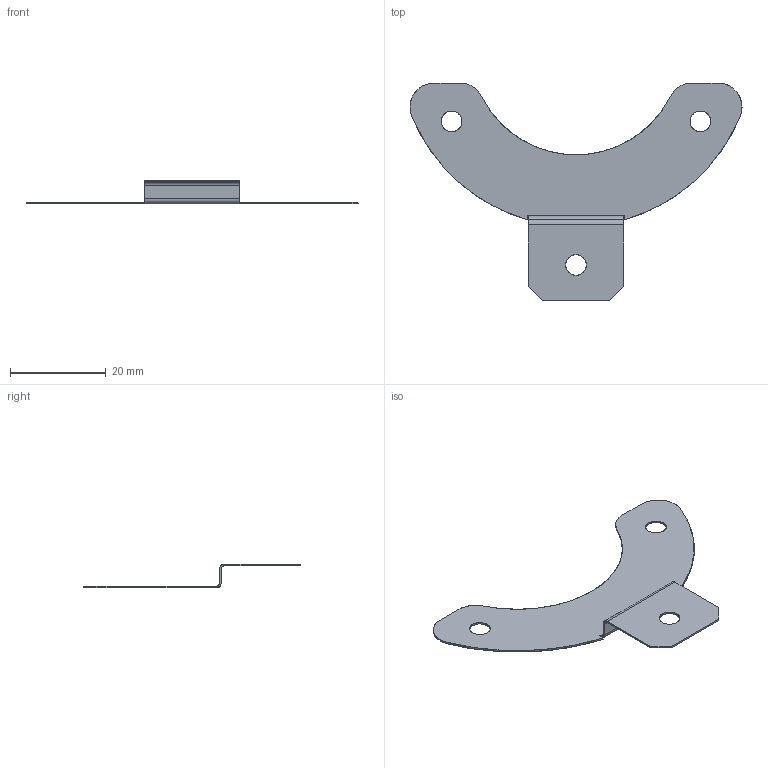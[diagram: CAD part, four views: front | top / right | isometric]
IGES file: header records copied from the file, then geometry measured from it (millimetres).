
Start section: SolidWorks IGES file using analytic representation for surfaces
Bounding box: 69.33 x 45.5 x 5 mm (x, y, z)
Surface area: 3082.8 mm2 (no closed solid volume)
Topology: 0 solids, 0 shells, 43 faces, 550 edges, 550 vertices
Faces by surface type: bspline 25, revolution 18
